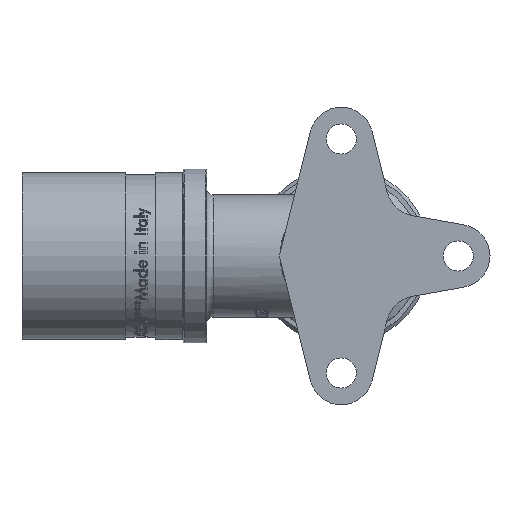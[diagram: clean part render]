
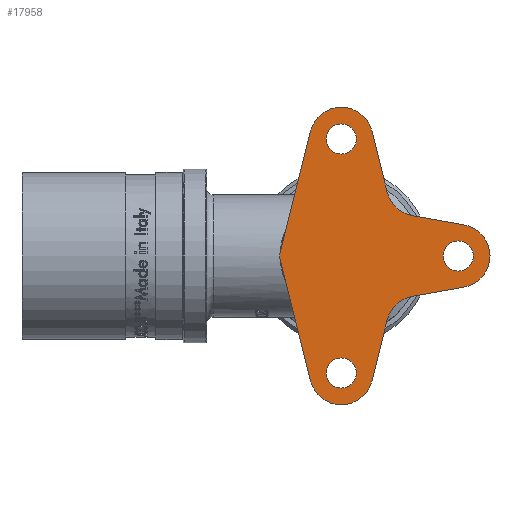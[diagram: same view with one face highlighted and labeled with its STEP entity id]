
A CAD part, front view. The second image highlights one B-rep face of the part: STEP entity #17958.
In plain terms, the highlighted planar face has unit normal (0, -1, 0).
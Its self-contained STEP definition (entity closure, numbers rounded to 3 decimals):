
#682=PLANE('',#19079);
#948=FACE_BOUND('',#2448,.T.);
#949=FACE_BOUND('',#2449,.T.);
#950=FACE_BOUND('',#2450,.T.);
#1380=FACE_OUTER_BOUND('',#2447,.T.);
#2447=EDGE_LOOP('',(#13778,#13779,#13780,#13781,#13782,#13783,#13784,#13785,
#13786,#13787,#13788));
#2448=EDGE_LOOP('',(#13789));
#2449=EDGE_LOOP('',(#13790));
#2450=EDGE_LOOP('',(#13791));
#4396=CIRCLE('',#19046,4.75);
#4398=CIRCLE('',#19050,4.75);
#4407=CIRCLE('',#19064,2.25);
#4408=CIRCLE('',#19066,2.25);
#4409=CIRCLE('',#19068,2.25);
#4410=CIRCLE('',#19071,4.75);
#4411=CIRCLE('',#19074,4.75);
#4412=CIRCLE('',#19078,4.75);
#5204=LINE('',#30825,#6402);
#5209=LINE('',#30840,#6407);
#5219=LINE('',#30882,#6417);
#5221=LINE('',#30888,#6419);
#5225=LINE('',#30897,#6423);
#5228=LINE('',#30902,#6426);
#6402=VECTOR('',#20998,10.);
#6407=VECTOR('',#21011,10.);
#6417=VECTOR('',#21057,10.);
#6419=VECTOR('',#21065,10.);
#6423=VECTOR('',#21075,10.);
#6426=VECTOR('',#21080,10.);
#7805=VERTEX_POINT('',#30815);
#7806=VERTEX_POINT('',#30817);
#7808=VERTEX_POINT('',#30823);
#7811=VERTEX_POINT('',#30830);
#7812=VERTEX_POINT('',#30832);
#7814=VERTEX_POINT('',#30838);
#7825=VERTEX_POINT('',#30869);
#7826=VERTEX_POINT('',#30873);
#7827=VERTEX_POINT('',#30877);
#7828=VERTEX_POINT('',#30881);
#7829=VERTEX_POINT('',#30887);
#7830=VERTEX_POINT('',#30891);
#7831=VERTEX_POINT('',#30896);
#7832=VERTEX_POINT('',#30901);
#9994=EDGE_CURVE('',#7805,#7806,#4396,.T.);
#9998=EDGE_CURVE('',#7805,#7808,#5204,.T.);
#10001=EDGE_CURVE('',#7811,#7812,#4398,.T.);
#10005=EDGE_CURVE('',#7811,#7814,#5209,.T.);
#10020=EDGE_CURVE('',#7825,#7825,#4407,.T.);
#10022=EDGE_CURVE('',#7826,#7826,#4408,.T.);
#10024=EDGE_CURVE('',#7827,#7827,#4409,.T.);
#10026=EDGE_CURVE('',#7828,#7806,#5219,.T.);
#10028=EDGE_CURVE('',#7814,#7828,#4410,.T.);
#10029=EDGE_CURVE('',#7829,#7812,#5221,.T.);
#10031=EDGE_CURVE('',#7830,#7829,#4411,.T.);
#10034=EDGE_CURVE('',#7831,#7830,#5225,.T.);
#10037=EDGE_CURVE('',#7832,#7831,#5228,.T.);
#10039=EDGE_CURVE('',#7808,#7832,#4412,.T.);
#13778=ORIENTED_EDGE('',*,*,#10039,.T.);
#13779=ORIENTED_EDGE('',*,*,#10037,.T.);
#13780=ORIENTED_EDGE('',*,*,#10034,.T.);
#13781=ORIENTED_EDGE('',*,*,#10031,.T.);
#13782=ORIENTED_EDGE('',*,*,#10029,.T.);
#13783=ORIENTED_EDGE('',*,*,#10001,.F.);
#13784=ORIENTED_EDGE('',*,*,#10005,.T.);
#13785=ORIENTED_EDGE('',*,*,#10028,.T.);
#13786=ORIENTED_EDGE('',*,*,#10026,.T.);
#13787=ORIENTED_EDGE('',*,*,#9994,.F.);
#13788=ORIENTED_EDGE('',*,*,#9998,.T.);
#13789=ORIENTED_EDGE('',*,*,#10024,.T.);
#13790=ORIENTED_EDGE('',*,*,#10022,.T.);
#13791=ORIENTED_EDGE('',*,*,#10020,.T.);
#17958=ADVANCED_FACE('',(#1380,#948,#949,#950),#682,.T.);
#19046=AXIS2_PLACEMENT_3D('',#30818,#20991,#20992);
#19050=AXIS2_PLACEMENT_3D('',#30833,#21004,#21005);
#19064=AXIS2_PLACEMENT_3D('',#30870,#21042,#21043);
#19066=AXIS2_PLACEMENT_3D('',#30874,#21047,#21048);
#19068=AXIS2_PLACEMENT_3D('',#30878,#21052,#21053);
#19071=AXIS2_PLACEMENT_3D('',#30885,#21061,#21062);
#19074=AXIS2_PLACEMENT_3D('',#30892,#21069,#21070);
#19078=AXIS2_PLACEMENT_3D('',#30905,#21084,#21085);
#19079=AXIS2_PLACEMENT_3D('',#30906,#21086,#21087);
#20991=DIRECTION('center_axis',(0.,-1.,0.));
#20992=DIRECTION('ref_axis',(-0.682,0.,-0.731));
#20998=DIRECTION('',(-0.241,0.,0.97));
#21004=DIRECTION('center_axis',(0.,-1.,0.));
#21005=DIRECTION('ref_axis',(-0.682,0.,0.731));
#21011=DIRECTION('',(0.985,0.,0.174));
#21042=DIRECTION('center_axis',(0.,1.,0.));
#21043=DIRECTION('ref_axis',(-1.,0.,0.));
#21047=DIRECTION('center_axis',(0.,1.,0.));
#21048=DIRECTION('ref_axis',(-1.,0.,0.));
#21052=DIRECTION('center_axis',(0.,1.,0.));
#21053=DIRECTION('ref_axis',(-1.,0.,0.));
#21057=DIRECTION('',(-0.985,0.,0.174));
#21061=DIRECTION('center_axis',(0.,-1.,0.));
#21062=DIRECTION('ref_axis',(1.,0.,0.));
#21065=DIRECTION('',(0.241,0.,0.97));
#21069=DIRECTION('center_axis',(0.,-1.,0.));
#21070=DIRECTION('ref_axis',(1.,0.,0.));
#21075=DIRECTION('',(0.241,0.,-0.97));
#21080=DIRECTION('',(-0.241,0.,-0.97));
#21084=DIRECTION('center_axis',(0.,-1.,0.));
#21085=DIRECTION('ref_axis',(1.,0.,0.));
#21086=DIRECTION('center_axis',(0.,-1.,0.));
#21087=DIRECTION('ref_axis',(0.,0.,-1.));
#30815=CARTESIAN_POINT('',(6.871,-16.5,9.561));
#30817=CARTESIAN_POINT('',(10.655,-16.5,6.03));
#30818=CARTESIAN_POINT('Origin',(11.48,-16.5,10.708));
#30823=CARTESIAN_POINT('',(4.609,-16.5,18.647));
#30825=CARTESIAN_POINT('',(7.616,-16.5,6.566));
#30830=CARTESIAN_POINT('',(10.655,-16.5,-6.03));
#30832=CARTESIAN_POINT('',(6.871,-16.5,-9.561));
#30833=CARTESIAN_POINT('Origin',(11.48,-16.5,-10.708));
#30838=CARTESIAN_POINT('',(18.325,-16.5,-4.678));
#30840=CARTESIAN_POINT('',(7.616,-16.5,-6.566));
#30869=CARTESIAN_POINT('',(2.25,-16.5,-17.5));
#30870=CARTESIAN_POINT('Origin',(0.,-16.5,-17.5));
#30873=CARTESIAN_POINT('',(2.25,-16.5,17.5));
#30874=CARTESIAN_POINT('Origin',(0.,-16.5,17.5));
#30877=CARTESIAN_POINT('',(19.75,-16.5,0.));
#30878=CARTESIAN_POINT('Origin',(17.5,-16.5,0.));
#30881=CARTESIAN_POINT('',(18.325,-16.5,4.678));
#30882=CARTESIAN_POINT('',(18.325,-16.5,4.678));
#30885=CARTESIAN_POINT('Origin',(17.5,-16.5,0.));
#30887=CARTESIAN_POINT('',(4.609,-16.5,-18.647));
#30888=CARTESIAN_POINT('',(4.609,-16.5,-18.647));
#30891=CARTESIAN_POINT('',(-4.609,-16.5,-18.647));
#30892=CARTESIAN_POINT('Origin',(0.,-16.5,-17.5));
#30896=CARTESIAN_POINT('',(-9.25,-16.5,0.));
#30897=CARTESIAN_POINT('',(-9.25,-16.5,0.));
#30901=CARTESIAN_POINT('',(-4.609,-16.5,18.647));
#30902=CARTESIAN_POINT('',(-4.609,-16.5,18.647));
#30905=CARTESIAN_POINT('Origin',(0.,-16.5,17.5));
#30906=CARTESIAN_POINT('Origin',(6.5,-16.5,0.));
